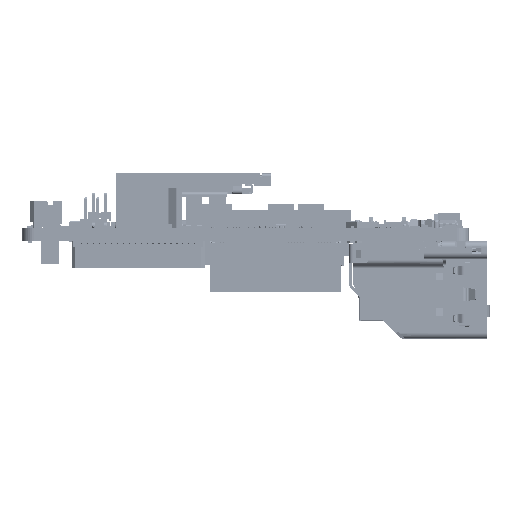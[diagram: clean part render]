
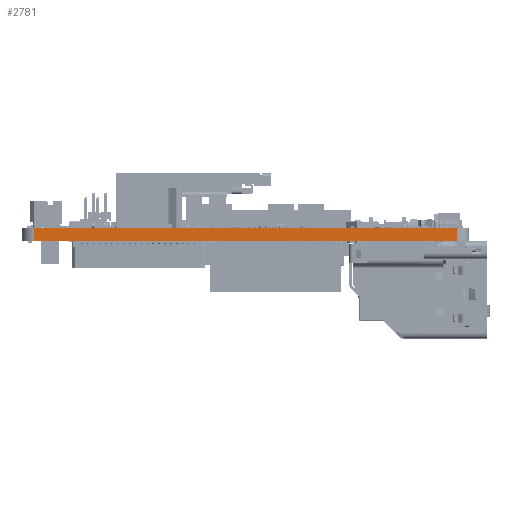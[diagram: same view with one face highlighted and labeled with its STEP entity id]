
A CAD part, left-side view. The second image highlights one B-rep face of the part: STEP entity #2781.
In plain terms, the highlighted planar face has unit normal (-1, 0, 0).
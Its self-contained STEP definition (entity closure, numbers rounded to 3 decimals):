
#2781 = ADVANCED_FACE('',(#2782),#2816,.T.);
#2782 = FACE_BOUND('',#2783,.T.);
#2783 = EDGE_LOOP('',(#2784,#2794,#2802,#2810));
#2784 = ORIENTED_EDGE('',*,*,#2785,.T.);
#2785 = EDGE_CURVE('',#2786,#2788,#2790,.T.);
#2786 = VERTEX_POINT('',#2787);
#2787 = CARTESIAN_POINT('',(0.,2.,0.));
#2788 = VERTEX_POINT('',#2789);
#2789 = CARTESIAN_POINT('',(0.,2.,2.087));
#2790 = LINE('',#2791,#2792);
#2791 = CARTESIAN_POINT('',(0.,2.,0.));
#2792 = VECTOR('',#2793,1.);
#2793 = DIRECTION('',(0.,0.,1.));
#2794 = ORIENTED_EDGE('',*,*,#2795,.T.);
#2795 = EDGE_CURVE('',#2788,#2796,#2798,.T.);
#2796 = VERTEX_POINT('',#2797);
#2797 = CARTESIAN_POINT('',(0.,73.,2.087));
#2798 = LINE('',#2799,#2800);
#2799 = CARTESIAN_POINT('',(0.,2.,2.087));
#2800 = VECTOR('',#2801,1.);
#2801 = DIRECTION('',(0.,1.,0.));
#2802 = ORIENTED_EDGE('',*,*,#2803,.F.);
#2803 = EDGE_CURVE('',#2804,#2796,#2806,.T.);
#2804 = VERTEX_POINT('',#2805);
#2805 = CARTESIAN_POINT('',(0.,73.,0.));
#2806 = LINE('',#2807,#2808);
#2807 = CARTESIAN_POINT('',(0.,73.,0.));
#2808 = VECTOR('',#2809,1.);
#2809 = DIRECTION('',(0.,0.,1.));
#2810 = ORIENTED_EDGE('',*,*,#2811,.F.);
#2811 = EDGE_CURVE('',#2786,#2804,#2812,.T.);
#2812 = LINE('',#2813,#2814);
#2813 = CARTESIAN_POINT('',(0.,2.,0.));
#2814 = VECTOR('',#2815,1.);
#2815 = DIRECTION('',(0.,1.,0.));
#2816 = PLANE('',#2817);
#2817 = AXIS2_PLACEMENT_3D('',#2818,#2819,#2820);
#2818 = CARTESIAN_POINT('',(0.,2.,0.));
#2819 = DIRECTION('',(-1.,0.,0.));
#2820 = DIRECTION('',(0.,1.,0.));
